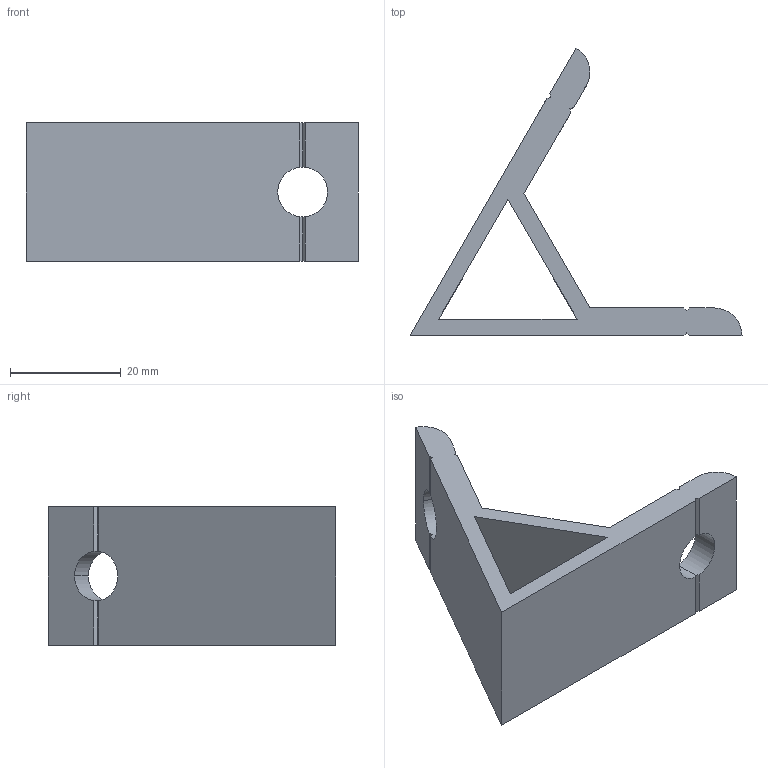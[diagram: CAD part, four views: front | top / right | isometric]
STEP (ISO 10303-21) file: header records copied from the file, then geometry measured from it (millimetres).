
FILE_DESCRIPTION (( 'STEP AP203' ), '1' );
FILE_NAME ('ALB2560-6.STEP', '2024-02-17T07:33:10', ( '' ), ( '' ), 'SwSTEP 2.0', 'SolidWorks 2022', '' );
FILE_SCHEMA (( 'CONFIG_CONTROL_DESIGN' ));
Length unit declared in the file: millimetre
Products named in the file (1): ALB2560-6
Bounding box: 60 x 51.96 x 25 mm (x, y, z)
Volume: 12386.5 mm3; surface area: 8082.5 mm2
Topology: 1 solids, 1 shells, 37 faces, 113 edges, 74 vertices
Faces by surface type: plane 30, cylinder 7
Entity records: 1342 total; most frequent: CARTESIAN_POINT 273, ORIENTED_EDGE 226, DIRECTION 191, EDGE_CURVE 113, LINE 79, VECTOR 79, VERTEX_POINT 74, AXIS2_PLACEMENT_3D 56
